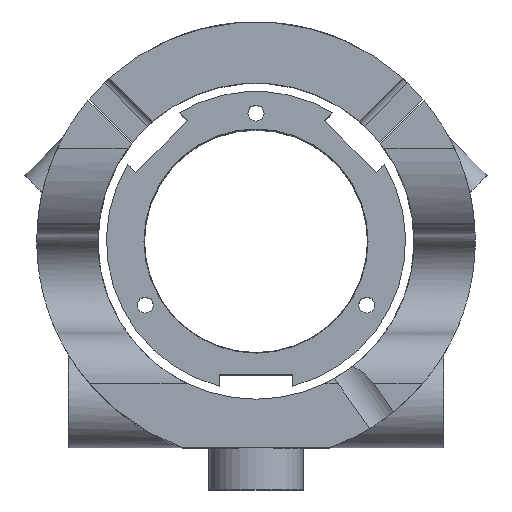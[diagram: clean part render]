
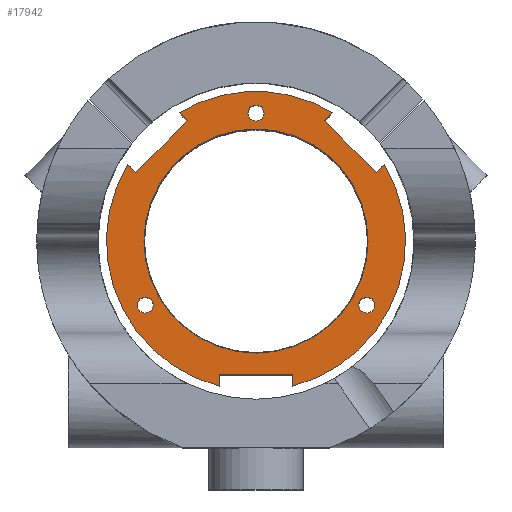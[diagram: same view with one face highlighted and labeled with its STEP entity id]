
A CAD part, top view. The second image highlights one B-rep face of the part: STEP entity #17942.
In plain terms, the highlighted planar face has unit normal (0, 0, 1).
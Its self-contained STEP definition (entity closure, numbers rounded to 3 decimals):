
#426=FACE_BOUND('',#1899,.T.);
#427=FACE_BOUND('',#1900,.T.);
#428=FACE_BOUND('',#1901,.T.);
#429=FACE_BOUND('',#1902,.T.);
#486=PLANE('',#18971);
#729=CIRCLE('',#18963,21.5);
#734=CIRCLE('',#18970,21.5);
#735=CIRCLE('',#18972,21.5);
#736=CIRCLE('',#18973,1.15);
#737=CIRCLE('',#18974,1.15);
#738=CIRCLE('',#18975,1.15);
#739=CIRCLE('',#18976,16.103);
#895=FACE_OUTER_BOUND('',#1898,.T.);
#1898=EDGE_LOOP('',(#11749,#11750,#11751,#11752,#11753,#11754,#11755,#11756,
#11757,#11758,#11759,#11760));
#1899=EDGE_LOOP('',(#11761));
#1900=EDGE_LOOP('',(#11762));
#1901=EDGE_LOOP('',(#11763));
#1902=EDGE_LOOP('',(#11764));
#4685=LINE('',#22581,#5731);
#4689=LINE('',#22590,#5735);
#4693=LINE('',#22599,#5739);
#4699=LINE('',#22644,#5745);
#4700=LINE('',#22646,#5746);
#4701=LINE('',#22649,#5747);
#4702=LINE('',#22650,#5748);
#4703=LINE('',#22651,#5749);
#4704=LINE('',#22652,#5750);
#5731=VECTOR('',#19733,10.);
#5735=VECTOR('',#19739,10.);
#5739=VECTOR('',#19745,10.);
#5745=VECTOR('',#19777,10.);
#5746=VECTOR('',#19778,10.);
#5747=VECTOR('',#19781,10.);
#5748=VECTOR('',#19782,10.);
#5749=VECTOR('',#19783,10.);
#5750=VECTOR('',#19784,10.);
#6795=VERTEX_POINT('',#22578);
#6796=VERTEX_POINT('',#22580);
#6799=VERTEX_POINT('',#22587);
#6800=VERTEX_POINT('',#22589);
#6803=VERTEX_POINT('',#22596);
#6804=VERTEX_POINT('',#22598);
#6809=VERTEX_POINT('',#22615);
#6810=VERTEX_POINT('',#22617);
#6817=VERTEX_POINT('',#22638);
#6818=VERTEX_POINT('',#22640);
#6819=VERTEX_POINT('',#22645);
#6820=VERTEX_POINT('',#22647);
#6821=VERTEX_POINT('',#22653);
#6822=VERTEX_POINT('',#22655);
#6823=VERTEX_POINT('',#22657);
#6824=VERTEX_POINT('',#22659);
#8766=EDGE_CURVE('',#6796,#6795,#4685,.T.);
#8770=EDGE_CURVE('',#6800,#6799,#4689,.T.);
#8774=EDGE_CURVE('',#6804,#6803,#4693,.T.);
#8781=EDGE_CURVE('',#6810,#6809,#729,.T.);
#8790=EDGE_CURVE('',#6818,#6817,#734,.T.);
#8792=EDGE_CURVE('',#6809,#6796,#4699,.T.);
#8793=EDGE_CURVE('',#6795,#6819,#4700,.T.);
#8794=EDGE_CURVE('',#6819,#6820,#735,.T.);
#8795=EDGE_CURVE('',#6820,#6804,#4701,.T.);
#8796=EDGE_CURVE('',#6803,#6818,#4702,.T.);
#8797=EDGE_CURVE('',#6817,#6800,#4703,.T.);
#8798=EDGE_CURVE('',#6799,#6810,#4704,.T.);
#8799=EDGE_CURVE('',#6821,#6821,#736,.T.);
#8800=EDGE_CURVE('',#6822,#6822,#737,.T.);
#8801=EDGE_CURVE('',#6823,#6823,#738,.T.);
#8802=EDGE_CURVE('',#6824,#6824,#739,.T.);
#11749=ORIENTED_EDGE('',*,*,#8792,.T.);
#11750=ORIENTED_EDGE('',*,*,#8766,.T.);
#11751=ORIENTED_EDGE('',*,*,#8793,.T.);
#11752=ORIENTED_EDGE('',*,*,#8794,.T.);
#11753=ORIENTED_EDGE('',*,*,#8795,.T.);
#11754=ORIENTED_EDGE('',*,*,#8774,.T.);
#11755=ORIENTED_EDGE('',*,*,#8796,.T.);
#11756=ORIENTED_EDGE('',*,*,#8790,.T.);
#11757=ORIENTED_EDGE('',*,*,#8797,.T.);
#11758=ORIENTED_EDGE('',*,*,#8770,.T.);
#11759=ORIENTED_EDGE('',*,*,#8798,.T.);
#11760=ORIENTED_EDGE('',*,*,#8781,.T.);
#11761=ORIENTED_EDGE('',*,*,#8799,.T.);
#11762=ORIENTED_EDGE('',*,*,#8800,.T.);
#11763=ORIENTED_EDGE('',*,*,#8801,.T.);
#11764=ORIENTED_EDGE('',*,*,#8802,.T.);
#17942=ADVANCED_FACE('',(#895,#426,#427,#428,#429),#486,.T.);
#18963=AXIS2_PLACEMENT_3D('',#22618,#19756,#19757);
#18970=AXIS2_PLACEMENT_3D('',#22641,#19772,#19773);
#18971=AXIS2_PLACEMENT_3D('',#22643,#19775,#19776);
#18972=AXIS2_PLACEMENT_3D('',#22648,#19779,#19780);
#18973=AXIS2_PLACEMENT_3D('',#22654,#19785,#19786);
#18974=AXIS2_PLACEMENT_3D('',#22656,#19787,#19788);
#18975=AXIS2_PLACEMENT_3D('',#22658,#19789,#19790);
#18976=AXIS2_PLACEMENT_3D('',#22660,#19791,#19792);
#19733=DIRECTION('',(-0.707,-0.707,0.));
#19739=DIRECTION('',(-0.707,0.707,0.));
#19745=DIRECTION('',(1.,0.,0.));
#19756=DIRECTION('center_axis',(0.,0.,1.));
#19757=DIRECTION('ref_axis',(1.,0.,0.));
#19772=DIRECTION('center_axis',(0.,0.,1.));
#19773=DIRECTION('ref_axis',(1.,0.,0.));
#19775=DIRECTION('center_axis',(0.,0.,
1.));
#19776=DIRECTION('ref_axis',(1.,0.,0.));
#19777=DIRECTION('',(0.707,-0.707,0.));
#19778=DIRECTION('',(-0.707,0.707,0.));
#19779=DIRECTION('center_axis',(0.,0.,1.));
#19780=DIRECTION('ref_axis',(1.,0.,0.));
#19781=DIRECTION('',(0.,1.,0.));
#19782=DIRECTION('',(0.,-1.,0.));
#19783=DIRECTION('',(-0.707,-0.707,0.));
#19784=DIRECTION('',(0.707,0.707,0.));
#19785=DIRECTION('center_axis',(0.,0.,
-1.));
#19786=DIRECTION('ref_axis',(1.,0.,0.));
#19787=DIRECTION('center_axis',(0.,0.,
-1.));
#19788=DIRECTION('ref_axis',(1.,0.,0.));
#19789=DIRECTION('center_axis',(0.,0.,
-1.));
#19790=DIRECTION('ref_axis',(1.,0.,0.));
#19791=DIRECTION('center_axis',(0.,0.,
-1.));
#19792=DIRECTION('ref_axis',(0.,-1.,0.));
#22578=CARTESIAN_POINT('',(-17.289,9.864,29.));
#22580=CARTESIAN_POINT('',(-9.864,17.289,29.));
#22581=CARTESIAN_POINT('',(-11.7,15.453,29.));
#22587=CARTESIAN_POINT('',(9.864,17.289,29.));
#22589=CARTESIAN_POINT('',(17.289,9.864,29.));
#22590=CARTESIAN_POINT('',(15.412,11.741,29.));
#22596=CARTESIAN_POINT('',(5.25,-19.2,29.));
#22598=CARTESIAN_POINT('',(-5.25,-19.2,29.));
#22599=CARTESIAN_POINT('',(-2.625,-19.2,29.));
#22615=CARTESIAN_POINT('',(-11.03,18.455,29.));
#22617=CARTESIAN_POINT('',(11.03,18.455,29.));
#22618=CARTESIAN_POINT('Origin',(0.,0.,29.));
#22638=CARTESIAN_POINT('',(18.455,11.03,29.));
#22640=CARTESIAN_POINT('',(5.25,-20.849,29.));
#22641=CARTESIAN_POINT('Origin',(0.,0.,29.));
#22643=CARTESIAN_POINT('Origin',(0.,0.081,
29.));
#22644=CARTESIAN_POINT('',(-3.803,11.228,29.));
#22645=CARTESIAN_POINT('',(-18.455,11.03,29.));
#22646=CARTESIAN_POINT('',(-10.521,3.096,29.));
#22647=CARTESIAN_POINT('',(-5.25,-20.849,29.));
#22648=CARTESIAN_POINT('Origin',(0.,0.,29.));
#22649=CARTESIAN_POINT('',(-5.25,-10.56,29.));
#22650=CARTESIAN_POINT('',(5.25,-9.56,29.));
#22651=CARTESIAN_POINT('',(11.228,3.803,29.));
#22652=CARTESIAN_POINT('',(3.096,10.521,29.));
#22653=CARTESIAN_POINT('',(-17.085,-9.2,29.));
#22654=CARTESIAN_POINT('Origin',(-15.935,-9.2,29.));
#22655=CARTESIAN_POINT('',(14.785,-9.2,29.));
#22656=CARTESIAN_POINT('Origin',(15.935,-9.2,29.));
#22657=CARTESIAN_POINT('',(-1.15,18.4,29.));
#22658=CARTESIAN_POINT('Origin',(0.,18.4,29.));
#22659=CARTESIAN_POINT('',(0.,16.103,29.));
#22660=CARTESIAN_POINT('Origin',(0.,0.,29.));
